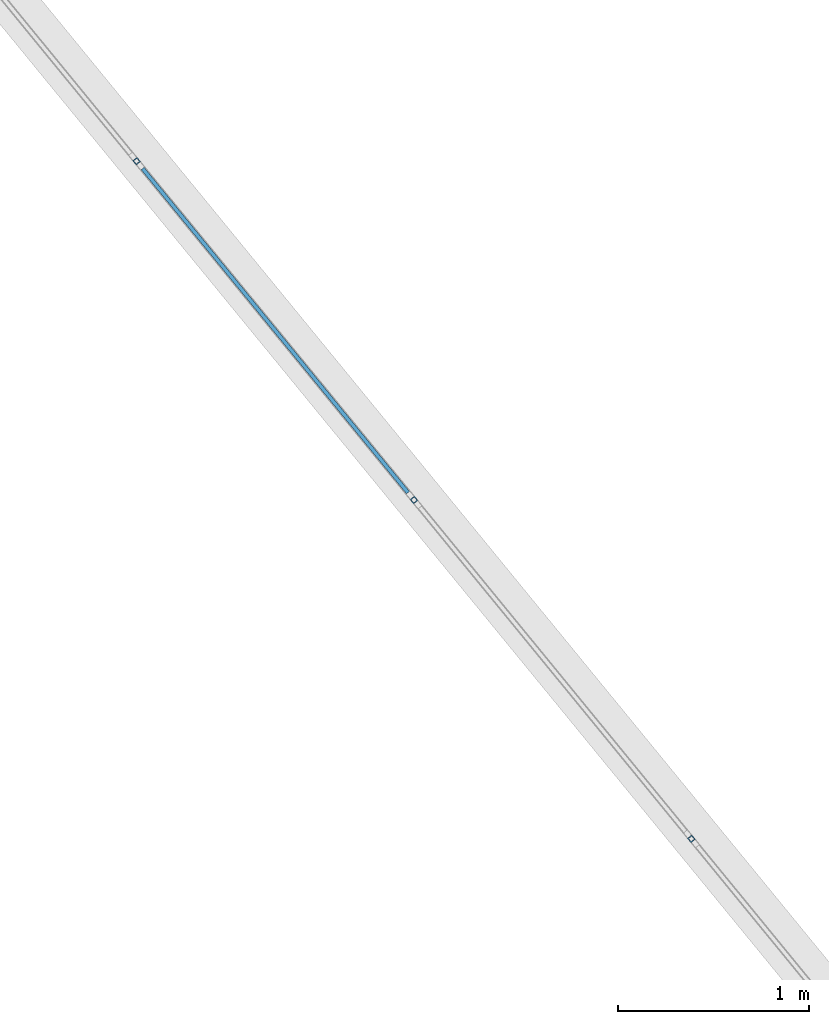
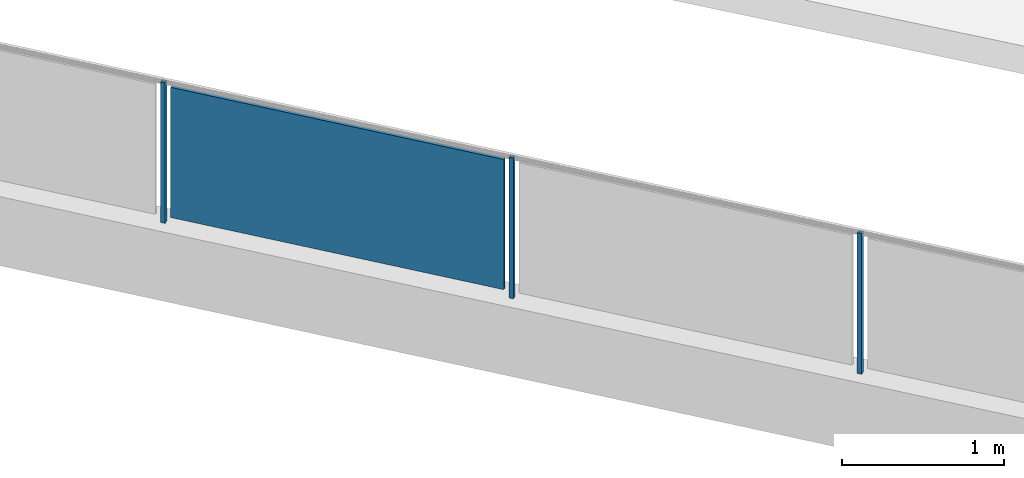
# One storey, part 20 of 67: 4 building element parts, 1 element without a shape of its own.
"""IFC4 building model written with IfcOpenShell, lengths in metres."""

from ifc_helpers import new_model, entity, si_unit, converted_unit, derived_unit, direction, frame, origin_with_axes, place, context, subcontext, project, spatial, polygons, material, type_object, element, aggregate, save


model = new_model("IFC4")

# Units and contexts
model_context = context("Model", 3, precision=1e-05, world=origin_with_axes(), true_north=direction((0.0, 1.0)))
body_context = subcontext(model_context, "Body", "Model", "MODEL_VIEW")
ifc_project = project(units=[si_unit("LENGTHUNIT", "METRE"), si_unit("AREAUNIT", "SQUARE_METRE"), si_unit("VOLUMEUNIT", "CUBIC_METRE"), converted_unit("PLANEANGLEUNIT", "DEGREE", entity("IfcPlaneAngleMeasure", 0.0174532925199), si_unit("PLANEANGLEUNIT", "RADIAN"), dimensions=[0, 0, 0, 0, 0, 0, 0]), converted_unit("TIMEUNIT", "Year", entity("IfcTimeMeasure", 31556926.0), si_unit("TIMEUNIT", "SECOND"), dimensions=[0, 0, 1, 0, 0, 0, 0]), si_unit("MASSUNIT", "GRAM", prefix="KILO"), si_unit("THERMODYNAMICTEMPERATUREUNIT", "DEGREE_CELSIUS"), si_unit("LUMINOUSINTENSITYUNIT", "LUMEN"), si_unit("ENERGYUNIT", "JOULE", prefix="MEGA"), derived_unit("THERMALCONDUCTANCEUNIT", [(si_unit("POWERUNIT", "WATT"), 1), (si_unit("LENGTHUNIT", "METRE"), -1), (si_unit("THERMODYNAMICTEMPERATUREUNIT", "KELVIN"), -1)]), derived_unit("SPECIFICHEATCAPACITYUNIT", [(si_unit("ENERGYUNIT", "JOULE"), 1), (si_unit("MASSUNIT", "GRAM", prefix="KILO"), -1), (si_unit("THERMODYNAMICTEMPERATUREUNIT", "KELVIN"), -1)]), derived_unit("MASSDENSITYUNIT", [(si_unit("MASSUNIT", "GRAM", prefix="KILO"), 1), (si_unit("VOLUMEUNIT", "CUBIC_METRE"), -1)])], contexts=[model_context])

# Site, building, storey
site_placement = place(None, frame((-0.00153261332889, -0.00661245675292, 0.0), z_axis=(0.0, 0.0, 1.0), x_axis=(1.0, 0.0, 0.0)))
site = spatial("IfcSite", under=ifc_project, at=site_placement, Name="Site", CompositionType="ELEMENT")
building_placement = place(site_placement, origin_with_axes())
building = spatial("IfcBuilding", under=site, at=building_placement, Name="Building", CompositionType="ELEMENT")
storey_placement = place(building_placement, frame((0.0, 0.0, -0.22), z_axis=(0.0, 0.0, 1.0), x_axis=(1.0, 0.0, 0.0)))
storey = spatial("IfcBuildingStorey", under=building, at=storey_placement, Name="EG", CompositionType="ELEMENT", Elevation=-0.22)

# Railing, building element parts
railing_type = type_object("IfcRailingType", Name="Geländerart", PredefinedType="NOTDEFINED")
railing_placement = place(storey_placement, frame((-12.1608341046, 23.557810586, 0.523948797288), z_axis=(0.0, 0.0, 1.0), x_axis=(1.0, 0.0, 0.0)))
railing = element("IfcRailing", 1, at=railing_placement, inside=storey, type_object=railing_type, Name="Geländer - 001", PredefinedType="NOTDEFINED")
ifc_material_1 = material(Name="Aluminium")
building_element_part_1_placement = place(railing_placement, origin_with_axes())
building_element_part_1 = element("IfcBuildingElementPart", 2, at=building_element_part_1_placement, material=ifc_material_1, Name="Aluminium", PredefinedType="NOTDEFINED", context=body_context, shape_type="Tessellation", body=[
    polygons([(-0.914733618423, -7.44434630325, 0.0), (-0.891520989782, -7.42534172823, 0.0), (-0.891520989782, -7.42534172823, 1.06), (-0.914733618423, -7.44434630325, 1.06), (-0.93373819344, -7.42113367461, 0.0), (-0.910525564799, -7.40212909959, 0.0), (-0.914032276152, -7.43731010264, 0.0), (-0.898557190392, -7.42464038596, 0.0), (-0.911226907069, -7.4091653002, 0.0), (-0.92670199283, -7.42183501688, 0.0), (-0.910525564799, -7.40212909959, 1.06), (-0.93373819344, -7.42113367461, 1.06), (-0.914032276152, -7.43731010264, 1.06), (-0.92670199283, -7.42183501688, 1.06), (-0.911226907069, -7.4091653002, 1.06), (-0.898557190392, -7.42464038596, 1.06)], [[[1, 2, 3, 4]], [[1, 5, 6, 2], [7, 8, 9, 10]], [[2, 6, 11, 3]], [[4, 3, 11, 12], [13, 14, 15, 16]], [[5, 1, 4, 12]], [[6, 5, 12, 11]], [[8, 7, 13, 16]], [[9, 8, 16, 15]], [[10, 9, 15, 14]], [[7, 10, 14, 13]]], closed=True),
])
ifc_material_2 = material(Name="Zaun")
building_element_part_2_placement = place(railing_placement, origin_with_axes())
building_element_part_2 = element("IfcBuildingElementPart", 3, at=building_element_part_2_placement, material=ifc_material_2, Name="Zaun", PredefinedType="NOTDEFINED", context=body_context, shape_type="Tessellation", body=[
    polygons([(0.517698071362, -9.15448740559, 0.05), (-0.873217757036, -7.45559055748, 0.05), (-0.873217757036, -7.45559055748, 1.03), (0.517698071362, -9.15448740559, 1.03), (-0.888692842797, -7.46826027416, 0.05), (0.502222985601, -9.16715712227, 0.05), (-0.888692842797, -7.46826027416, 1.03), (0.502222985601, -9.16715712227, 1.03)], [[[1, 2, 3, 4]], [[5, 2, 1, 6]], [[7, 3, 2, 5]], [[4, 3, 7, 8]], [[1, 4, 8, 6]], [[7, 5, 6, 8]]], closed=True),
])
building_element_part_3_placement = place(railing_placement, origin_with_axes())
building_element_part_3 = element("IfcBuildingElementPart", 4, at=building_element_part_3_placement, material=ifc_material_1, Name="Aluminium", PredefinedType="NOTDEFINED", context=body_context, shape_type="Tessellation", body=[
    polygons([(0.539530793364, -9.22061858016, 0.0), (0.562743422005, -9.20161400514, 0.0), (0.562743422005, -9.20161400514, 1.06), (0.539530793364, -9.22061858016, 1.06), (0.520526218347, -9.19740595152, 0.0), (0.543738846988, -9.1784013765, 0.0), (0.540232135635, -9.21358237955, 0.0), (0.555707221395, -9.20091266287, 0.0), (0.543037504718, -9.18543757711, 0.0), (0.527562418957, -9.19810729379, 0.0), (0.543738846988, -9.1784013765, 1.06), (0.520526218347, -9.19740595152, 1.06), (0.540232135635, -9.21358237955, 1.06), (0.527562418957, -9.19810729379, 1.06), (0.543037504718, -9.18543757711, 1.06), (0.555707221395, -9.20091266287, 1.06)], [[[1, 2, 3, 4]], [[1, 5, 6, 2], [7, 8, 9, 10]], [[2, 6, 11, 3]], [[4, 3, 11, 12], [13, 14, 15, 16]], [[5, 1, 4, 12]], [[6, 5, 12, 11]], [[8, 7, 13, 16]], [[9, 8, 16, 15]], [[10, 9, 15, 14]], [[7, 10, 14, 13]]], closed=True),
])
building_element_part_4_placement = place(railing_placement, origin_with_axes())
building_element_part_4 = element("IfcBuildingElementPart", 5, at=building_element_part_4_placement, material=ifc_material_1, Name="Aluminium", PredefinedType="NOTDEFINED", context=body_context, shape_type="Tessellation", body=[
    polygons([(1.99379520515, -10.9968908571, 0.0), (2.01700783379, -10.9778862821, 0.0), (2.01700783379, -10.9778862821, 1.06), (1.99379520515, -10.9968908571, 1.06), (1.97479063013, -10.9736782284, 0.0), (1.99800325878, -10.9546736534, 0.0), (1.99449654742, -10.9898546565, 0.0), (2.00997163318, -10.9771849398, 0.0), (1.9973019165, -10.961709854, 0.0), (1.98182683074, -10.9743795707, 0.0), (1.99800325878, -10.9546736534, 1.06), (1.97479063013, -10.9736782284, 1.06), (1.99449654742, -10.9898546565, 1.06), (1.98182683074, -10.9743795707, 1.06), (1.9973019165, -10.961709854, 1.06), (2.00997163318, -10.9771849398, 1.06)], [[[1, 2, 3, 4]], [[1, 5, 6, 2], [7, 8, 9, 10]], [[2, 6, 11, 3]], [[4, 3, 11, 12], [13, 14, 15, 16]], [[5, 1, 4, 12]], [[6, 5, 12, 11]], [[8, 7, 13, 16]], [[9, 8, 16, 15]], [[10, 9, 15, 14]], [[7, 10, 14, 13]]], closed=True),
])
aggregate(railing, [building_element_part_1, building_element_part_2, building_element_part_3, building_element_part_4])

save(model, "model.ifc")
